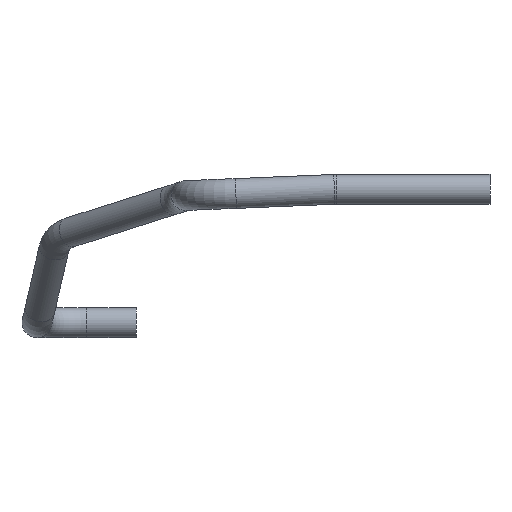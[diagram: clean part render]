
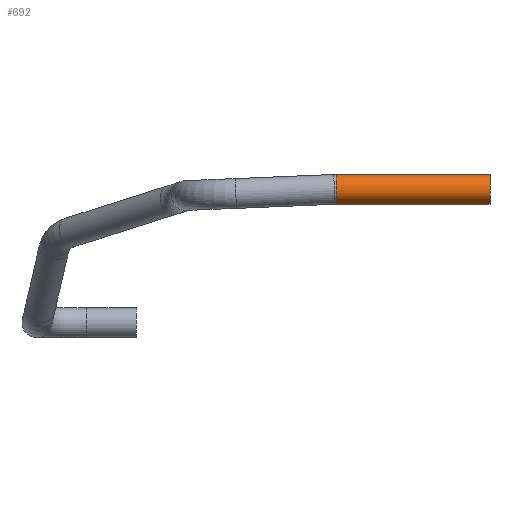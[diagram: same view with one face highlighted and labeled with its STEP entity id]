
A CAD part, front view. The second image highlights one B-rep face of the part: STEP entity #692.
In plain terms, the highlighted cylindrical face has radius 0.6 mm (diameter 1.2 mm), a full revolution.
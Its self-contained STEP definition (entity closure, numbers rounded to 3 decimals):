
#626 = TOROIDAL_SURFACE('',#627,2.,0.6);
#627 = AXIS2_PLACEMENT_3D('',#628,#629,#630);
#628 = CARTESIAN_POINT('',(-21.958,-34.7,-6.));
#629 = DIRECTION('',(-0.,1.,-0.));
#630 = DIRECTION('',(-0.042,0.,0.999));
#643 = VERTEX_POINT('',#644);
#644 = CARTESIAN_POINT('',(-21.958,-34.88,
    -4.572));
#665 = EDGE_CURVE('',#643,#643,#666,.T.);
#666 = SURFACE_CURVE('',#667,(#672,#679),.PCURVE_S1.);
#667 = CIRCLE('',#668,0.6);
#668 = AXIS2_PLACEMENT_3D('',#669,#670,#671);
#669 = CARTESIAN_POINT('',(-21.958,-34.7,-4.));
#670 = DIRECTION('',(-1.,0.,0.));
#671 = DIRECTION('',(0.,0.,1.));
#672 = PCURVE('',#626,#673);
#673 = DEFINITIONAL_REPRESENTATION('',(#674),#678);
#674 = LINE('',#675,#676);
#675 = CARTESIAN_POINT('',(0.042,0.));
#676 = VECTOR('',#677,1.);
#677 = DIRECTION('',(0.,1.));
#678 = ( GEOMETRIC_REPRESENTATION_CONTEXT(2) 
PARAMETRIC_REPRESENTATION_CONTEXT() REPRESENTATION_CONTEXT('2D SPACE',''
  ) );
#679 = PCURVE('',#680,#685);
#680 = CYLINDRICAL_SURFACE('',#681,0.6);
#681 = AXIS2_PLACEMENT_3D('',#682,#683,#684);
#682 = CARTESIAN_POINT('',(-21.958,-34.7,-4.));
#683 = DIRECTION('',(1.,0.,0.));
#684 = DIRECTION('',(0.,-0.3,-0.954));
#685 = DEFINITIONAL_REPRESENTATION('',(#686),#689);
#686 = B_SPLINE_CURVE_WITH_KNOTS('',1,(#687,#688),.UNSPECIFIED.,.F.,.F.,
  (2,2),(3.447,9.73),.PIECEWISE_BEZIER_KNOTS.);
#687 = CARTESIAN_POINT('',(6.283,0.));
#688 = CARTESIAN_POINT('',(0.,0.));
#689 = ( GEOMETRIC_REPRESENTATION_CONTEXT(2) 
PARAMETRIC_REPRESENTATION_CONTEXT() REPRESENTATION_CONTEXT('2D SPACE',''
  ) );
#692 = ADVANCED_FACE('',(#693),#680,.T.);
#693 = FACE_BOUND('',#694,.T.);
#694 = EDGE_LOOP('',(#695,#717,#744,#745));
#695 = ORIENTED_EDGE('',*,*,#696,.T.);
#696 = EDGE_CURVE('',#643,#697,#699,.T.);
#697 = VERTEX_POINT('',#698);
#698 = CARTESIAN_POINT('',(-15.784,-34.88,
    -4.572));
#699 = SEAM_CURVE('',#700,(#704,#710),.PCURVE_S1.);
#700 = LINE('',#701,#702);
#701 = CARTESIAN_POINT('',(-21.958,-34.88,
    -4.572));
#702 = VECTOR('',#703,1.);
#703 = DIRECTION('',(1.,0.,0.));
#704 = PCURVE('',#680,#705);
#705 = DEFINITIONAL_REPRESENTATION('',(#706),#709);
#706 = B_SPLINE_CURVE_WITH_KNOTS('',1,(#707,#708),.UNSPECIFIED.,.F.,.F.,
  (2,2),(0.,6.175),.PIECEWISE_BEZIER_KNOTS.);
#707 = CARTESIAN_POINT('',(6.283,0.));
#708 = CARTESIAN_POINT('',(6.283,6.175));
#709 = ( GEOMETRIC_REPRESENTATION_CONTEXT(2) 
PARAMETRIC_REPRESENTATION_CONTEXT() REPRESENTATION_CONTEXT('2D SPACE',''
  ) );
#710 = PCURVE('',#680,#711);
#711 = DEFINITIONAL_REPRESENTATION('',(#712),#716);
#712 = LINE('',#713,#714);
#713 = CARTESIAN_POINT('',(0.,0.));
#714 = VECTOR('',#715,1.);
#715 = DIRECTION('',(0.,1.));
#716 = ( GEOMETRIC_REPRESENTATION_CONTEXT(2) 
PARAMETRIC_REPRESENTATION_CONTEXT() REPRESENTATION_CONTEXT('2D SPACE',''
  ) );
#717 = ORIENTED_EDGE('',*,*,#718,.F.);
#718 = EDGE_CURVE('',#697,#697,#719,.T.);
#719 = SURFACE_CURVE('',#720,(#725,#732),.PCURVE_S1.);
#720 = CIRCLE('',#721,0.6);
#721 = AXIS2_PLACEMENT_3D('',#722,#723,#724);
#722 = CARTESIAN_POINT('',(-15.784,-34.7,-4.));
#723 = DIRECTION('',(1.,0.,0.));
#724 = DIRECTION('',(0.,-0.3,-0.954));
#725 = PCURVE('',#680,#726);
#726 = DEFINITIONAL_REPRESENTATION('',(#727),#731);
#727 = LINE('',#728,#729);
#728 = CARTESIAN_POINT('',(0.,6.175));
#729 = VECTOR('',#730,1.);
#730 = DIRECTION('',(1.,0.));
#731 = ( GEOMETRIC_REPRESENTATION_CONTEXT(2) 
PARAMETRIC_REPRESENTATION_CONTEXT() REPRESENTATION_CONTEXT('2D SPACE',''
  ) );
#732 = PCURVE('',#733,#738);
#733 = PLANE('',#734);
#734 = AXIS2_PLACEMENT_3D('',#735,#736,#737);
#735 = CARTESIAN_POINT('',(-15.784,-34.7,-4.));
#736 = DIRECTION('',(1.,0.,0.));
#737 = DIRECTION('',(-0.,0.,1.));
#738 = DEFINITIONAL_REPRESENTATION('',(#739),#743);
#739 = CIRCLE('',#740,0.6);
#740 = AXIS2_PLACEMENT_2D('',#741,#742);
#741 = CARTESIAN_POINT('',(0.,0.));
#742 = DIRECTION('',(-0.954,0.3));
#743 = ( GEOMETRIC_REPRESENTATION_CONTEXT(2) 
PARAMETRIC_REPRESENTATION_CONTEXT() REPRESENTATION_CONTEXT('2D SPACE',''
  ) );
#744 = ORIENTED_EDGE('',*,*,#696,.F.);
#745 = ORIENTED_EDGE('',*,*,#665,.F.);
